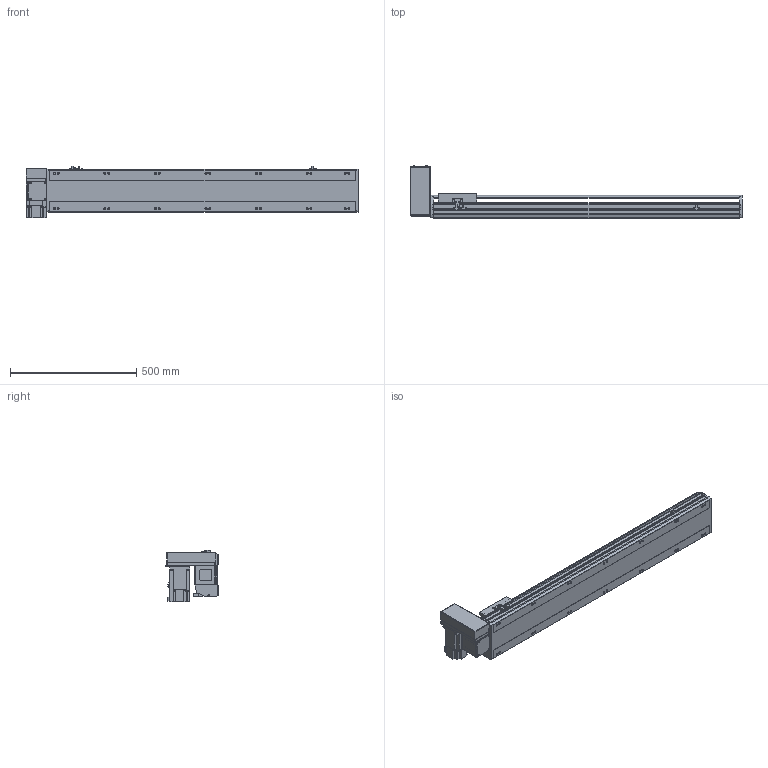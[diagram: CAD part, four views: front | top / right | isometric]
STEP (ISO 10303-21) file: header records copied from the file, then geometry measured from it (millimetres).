
FILE_DESCRIPTION(/* description */ ('STEP AP214'),/* implementation_level */ '2;1');
FILE_NAME(/* name */ 'PBS170-P40-S950-RU-T75-C1-N(0)',/* time_stamp */ '2022-06-08T07:56:51+02:00',/* author */ ('License CC BY-ND 4.0'),/* organization */ ('CADENAS'),/* preprocessor_version */ 'ST-DEVELOPER v18.102',/* originating_system */ 'PARTsolutions',/* authorisation */ ' ');
FILE_SCHEMA (('AUTOMOTIVE_DESIGN {1 0 10303 214 3 1 1}'));
Length unit declared in the file: millimetre
Products named in the file (7): PBS170-P40-S950-RU-T75-C1-N(0); PBS170_sensor; PBS170_plant; PBS170_sliser; T75-p1; PBS170T-RU_motors; PBS170-S950()_body
Assembly tree (8 placements, depth 2):
  PBS170-P40-S950-RU-T75-C1-N(0)
    PBS170_sensor  x3
    PBS170_plant
    PBS170_sliser
    T75-p1
    PBS170T-RU_motors
    PBS170-S950()_body
Bounding box: 1313 x 206 x 205.3 mm (x, y, z)
Volume: 10634739.1 mm3; surface area: 1396961.1 mm2
Topology: 8 solids, 8 shells, 1066 faces, 2835 edges, 1848 vertices
Faces by surface type: plane 681, cylinder 331, cone 44, sphere 8, torus 2
Full cylindrical faces by diameter (mm): 3.242 x4, 4 x2, 4.4 x4, 4.5 x6, 4.917 x4, 6 x9, 6.647 x22, 7 x2, 7.5 x4, 8 x8, 8.5 x14, 10 x4, 10.5 x14, 11 x2, 30 x2, 40 x1, 70 x1
Entity records: 30660 total; most frequent: CARTESIAN_POINT 5601, DIRECTION 5230, ORIENTED_EDGE 4968, EDGE_CURVE 2484, AXIS2_PLACEMENT_3D 1807, VERTEX_POINT 1706, LINE 1616, VECTOR 1616
